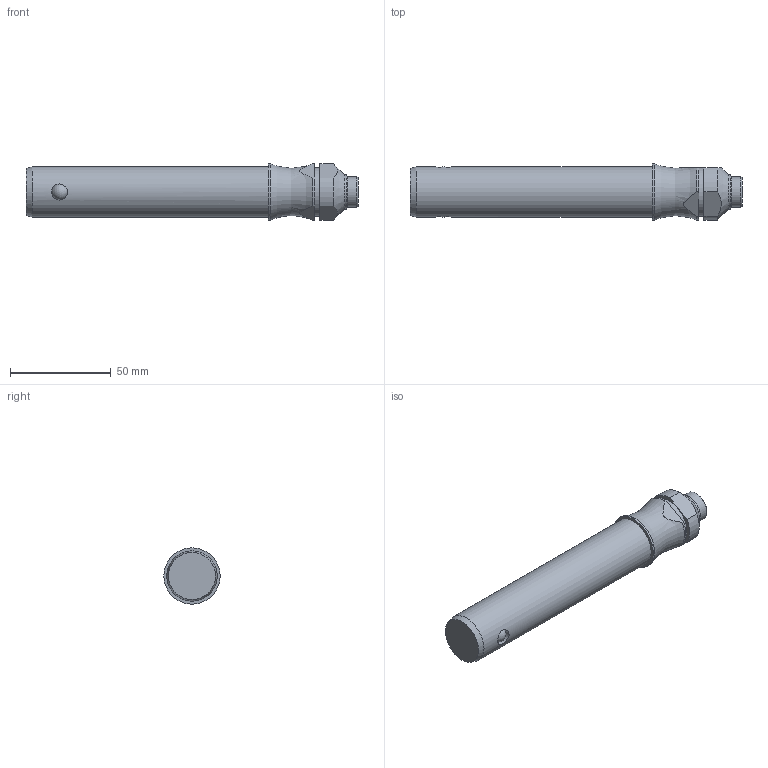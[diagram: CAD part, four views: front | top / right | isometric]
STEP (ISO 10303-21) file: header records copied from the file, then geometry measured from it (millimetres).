
FILE_DESCRIPTION( ( 'STEP AP203' ), '1' );
FILE_NAME( 'C:/Temp/Ganter_Step_05_03_2020/data/3_1/gn113_3/Stainless Steel-Ball lock pin GN 113.3-25-100 (activated).stp', '2020-03-12T08:19:12', ( 'License CC BY-ND 4.0' ), ( 'CADENAS' ), ' ', 'PARTsolutions', ' ' );
FILE_SCHEMA( ( 'CONFIG_CONTROL_DESIGN' ) );
Length unit declared in the file: millimetre
Products named in the file (1): _Stainless Steel-Ball lock pin GN 113.3-25-100 (activated)
Bounding box: 165.05 x 28 x 28 mm (x, y, z)
Volume: 78752.3 mm3; surface area: 14208 mm2
Topology: 1 solids, 1 shells, 31 faces, 74 edges, 46 vertices
Faces by surface type: cylinder 13, plane 11, cone 4, sphere 2, torus 1
Full cylindrical faces by diameter (mm): 8 x2, 15 x1, 17 x1, 24 x1, 25 x1, 28 x1
Entity records: 1046 total; most frequent: CARTESIAN_POINT 382, DIRECTION 134, ORIENTED_EDGE 104, AXIS2_PLACEMENT_3D 58, EDGE_CURVE 52, EDGE_LOOP 48, VERTEX_POINT 40, FACE_OUTER_BOUND 39
